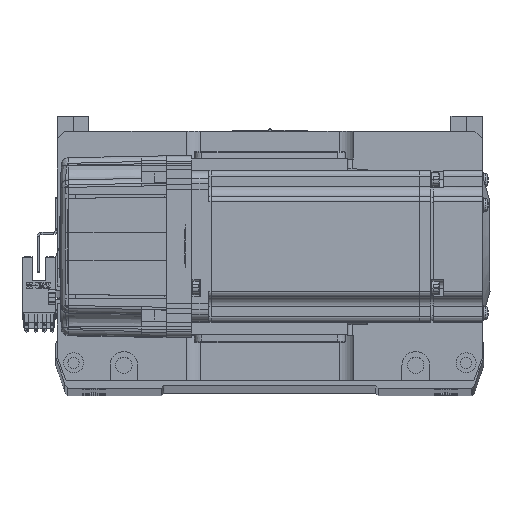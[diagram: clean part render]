
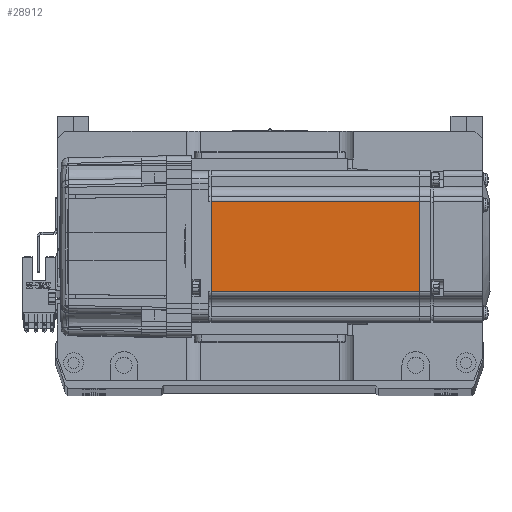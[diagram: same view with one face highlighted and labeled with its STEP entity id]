
A CAD part, top view. The second image highlights one B-rep face of the part: STEP entity #28912.
In plain terms, the highlighted planar face has unit normal (0, 0, 1) as drawn and (0, -1, 0) by its records, which use the part's own axes.
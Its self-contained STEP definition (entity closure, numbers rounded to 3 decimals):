
#1856 = VERTEX_POINT ( 'NONE', #23932 ) ;
#2574 = VERTEX_POINT ( 'NONE', #41498 ) ;
#3713 = LINE ( 'NONE', #49327, #42931 ) ;
#7644 = VERTEX_POINT ( 'NONE', #16181 ) ;
#11617 = ORIENTED_EDGE ( 'NONE', *, *, #63398, .T. ) ;
#12871 = CARTESIAN_POINT ( 'NONE',  ( -7.75, -30., -25. ) ) ;
#12895 = LINE ( 'NONE', #29816, #48904 ) ;
#16181 = CARTESIAN_POINT ( 'NONE',  ( -7.75, -30., -18. ) ) ;
#16778 = LINE ( 'NONE', #12871, #40787 ) ;
#18037 = DIRECTION ( 'NONE',  ( 0., 0., 1. ) ) ;
#20894 = EDGE_CURVE ( 'NONE', #65018, #7644, #3713, .T. ) ;
#23265 = DIRECTION ( 'NONE',  ( -1., 0., 0. ) ) ;
#23932 = CARTESIAN_POINT ( 'NONE',  ( -7.75, -30., 18. ) ) ;
#25183 = PLANE ( 'NONE',  #36532 ) ;
#28912 = ADVANCED_FACE ( 'NONE', ( #46929 ), #25183, .T. ) ;
#29816 = CARTESIAN_POINT ( 'NONE',  ( -90.45, -30., -25. ) ) ;
#34107 = DIRECTION ( 'NONE',  ( 1., 0., 0. ) ) ;
#35168 = DIRECTION ( 'NONE',  ( 0., 0., -1. ) ) ;
#35426 = DIRECTION ( 'NONE',  ( 0., -1., 0. ) ) ;
#36142 = LINE ( 'NONE', #48578, #45342 ) ;
#36532 = AXIS2_PLACEMENT_3D ( 'NONE', #50439, #35426, #45952 ) ;
#40787 = VECTOR ( 'NONE', #18037, 1000. ) ;
#41498 = CARTESIAN_POINT ( 'NONE',  ( -90.45, -30., 18. ) ) ;
#42554 = EDGE_CURVE ( 'NONE', #2574, #65018, #12895, .T. ) ;
#42931 = VECTOR ( 'NONE', #34107, 1000. ) ;
#43683 = EDGE_LOOP ( 'NONE', ( #65772, #11617, #65840, #60814 ) ) ;
#45342 = VECTOR ( 'NONE', #23265, 1000. ) ;
#45952 = DIRECTION ( 'NONE',  ( 0., 0., -1. ) ) ;
#46929 = FACE_OUTER_BOUND ( 'NONE', #43683, .T. ) ;
#48578 = CARTESIAN_POINT ( 'NONE',  ( -6.5, -30., 18. ) ) ;
#48904 = VECTOR ( 'NONE', #35168, 1000. ) ;
#48936 = EDGE_CURVE ( 'NONE', #7644, #1856, #16778, .T. ) ;
#49327 = CARTESIAN_POINT ( 'NONE',  ( -6.5, -30., -18. ) ) ;
#50439 = CARTESIAN_POINT ( 'NONE',  ( -6.5, -30., -25. ) ) ;
#59701 = CARTESIAN_POINT ( 'NONE',  ( -90.45, -30., -18. ) ) ;
#60814 = ORIENTED_EDGE ( 'NONE', *, *, #20894, .T. ) ;
#63398 = EDGE_CURVE ( 'NONE', #1856, #2574, #36142, .T. ) ;
#65018 = VERTEX_POINT ( 'NONE', #59701 ) ;
#65772 = ORIENTED_EDGE ( 'NONE', *, *, #48936, .T. ) ;
#65840 = ORIENTED_EDGE ( 'NONE', *, *, #42554, .T. ) ;
